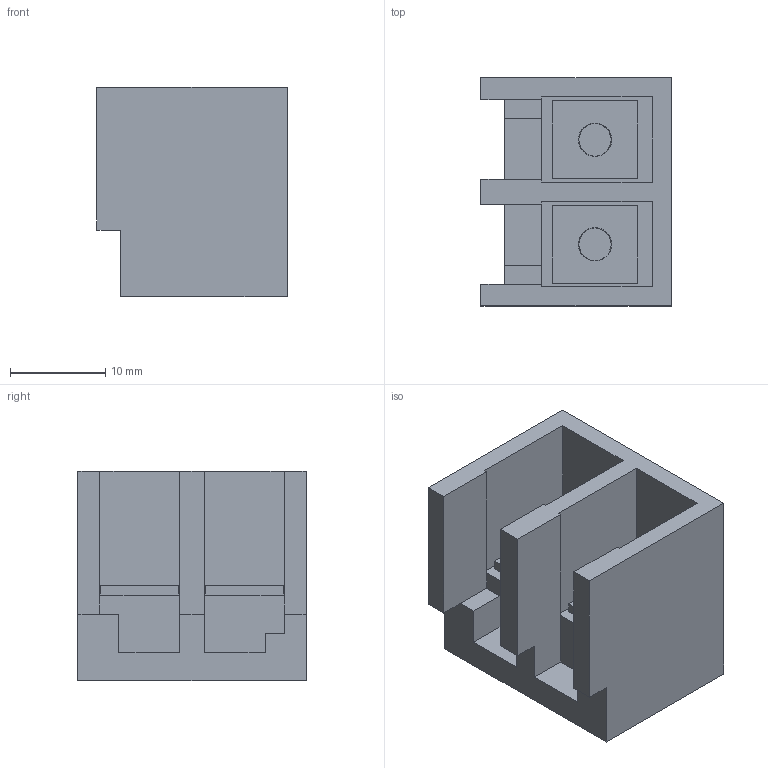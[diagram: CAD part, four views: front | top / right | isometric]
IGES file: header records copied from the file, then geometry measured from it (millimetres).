
Start section:  PTC IGES file: j4-500-te1.igs
Global section: file name: j4-500-te1.igs; native system: Pro/ENGINEER by Parametric Technology Corporation; preprocessor: 2010160; author: CV86875; organization: Unknown; date: 20121031.193937; units: millimetre
Bounding box: 20 x 24 x 22 mm (x, y, z)
Volume: 5591.2 mm3; surface area: 4102.5 mm2
Topology: 1 solids, 1 shells, 52 faces, 133 edges, 87 vertices
Faces by surface type: bspline 52
